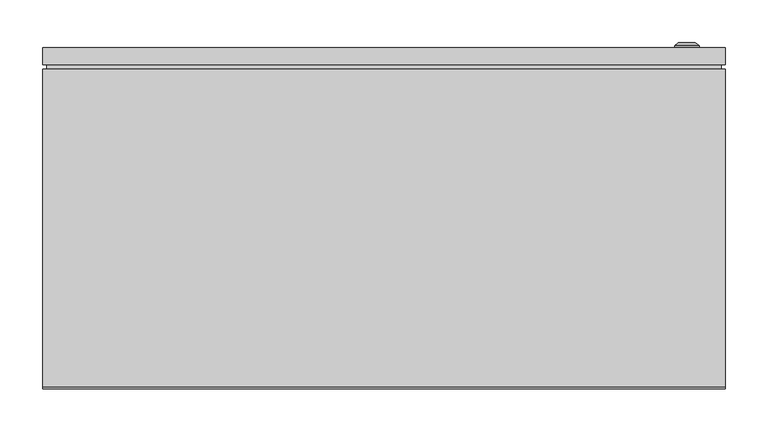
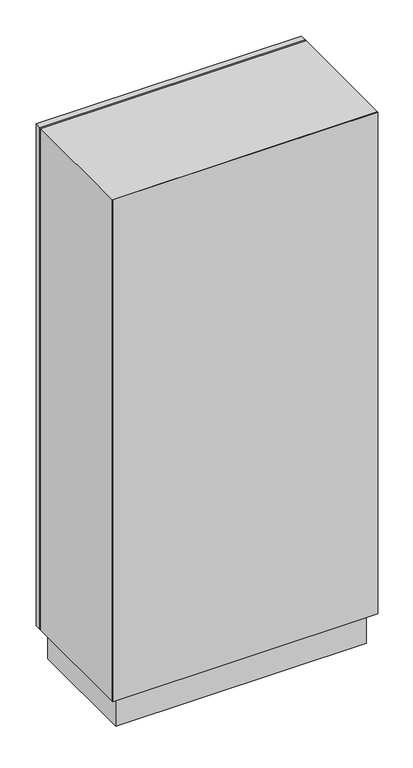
"""IFC4 building model written with IfcOpenShell, lengths in millimetres: proxy geometry, ЩМП_IP65 : ЩМП-16.8.4-0_1600х800х400."""

import ifcopenshell
import ifcopenshell.guid

model = None  # the IFC model being written
_history = None  # IfcOwnerHistory: only IFC2X3 demands one
_inside = {}  # id of a spatial element -> (the spatial element, [elements in it])
_under = {}  # id of a project, library or spatial element -> (it, [spatial elements below it])
_declared = {}  # id of a project -> (the project, [libraries it declares])
_typed = {}  # id of a type object -> (the type object, [elements of that type])
_made_of = {}  # id of a material, layer set ... -> (it, [elements and type objects made of it])


def new_model(schema):
    """Start an empty IFC model of exactly this schema.

    Asked for "IFC4X3", IfcOpenShell would pick the latest addendum, in which some entities
    have other attributes; the version numbers below select the first issue.
    IFC2X3 requires an IfcOwnerHistory on every rooted entity: one is made here for all.
    """
    global model, _history
    if schema == "IFC4X3":
        model = ifcopenshell.file(schema_version=(4, 3, 0, 0))
    else:
        model = ifcopenshell.file(schema=schema)
    _inside.clear()
    _under.clear()
    _declared.clear()
    _typed.clear()
    _made_of.clear()
    _history = None
    if model.schema == "IFC2X3":
        org = make("IfcOrganization", Name="unknown")
        user = make(
            "IfcPersonAndOrganization",
            ThePerson=make("IfcPerson", FamilyName="unknown"),
            TheOrganization=org,
        )
        app = make(
            "IfcApplication",
            ApplicationDeveloper=org,
            Version="unknown",
            ApplicationFullName="unknown",
            ApplicationIdentifier="unknown",
        )
        _history = make(
            "IfcOwnerHistory",
            OwningUser=user,
            OwningApplication=app,
            ChangeAction="ADDED",
            CreationDate=0,
        )
    return model


def make(cls, **values):
    """One entity of the class cls with the attributes given. An attribute that is None is left unset."""
    return model.create_entity(
        cls, **{name: value for name, value in values.items() if value is not None}
    )


def rooted(cls, **values):
    """An entity with a GlobalId (a new one), such as an element, a storey or a relation."""
    return make(cls, GlobalId=ifcopenshell.guid.new(), OwnerHistory=_history, **values)


def si_unit(unit_type, name, prefix=None):
    """IfcSIUnit, for example si_unit("LENGTHUNIT", "METRE", prefix="MILLI")."""
    return make("IfcSIUnit", UnitType=unit_type, Prefix=prefix, Name=name)


def assignment(units):
    """IfcUnitAssignment: the units of a project."""
    return None if units is None else make("IfcUnitAssignment", Units=units)


def point(xyz):
    """IfcCartesianPoint."""
    return None if xyz is None else make("IfcCartesianPoint", Coordinates=xyz)


def direction(xyz):
    """IfcDirection."""
    return None if xyz is None else make("IfcDirection", DirectionRatios=xyz)


def frame(location, z_axis=None, x_axis=None):
    """IfcAxis2Placement3D, a coordinate frame: its origin and axes. An axis left out is left unset."""
    return make(
        "IfcAxis2Placement3D",
        Location=point(location),
        Axis=direction(z_axis),
        RefDirection=direction(x_axis),
    )


def origin():
    """The frame at (0, 0, 0) with its axes left unset."""
    return frame((0.0, 0.0, 0.0))


def origin_with_axes():
    """The frame at (0, 0, 0) with the z axis (0, 0, 1) and the x axis (1, 0, 0) written out."""
    return frame((0.0, 0.0, 0.0), z_axis=(0.0, 0.0, 1.0), x_axis=(1.0, 0.0, 0.0))


def place(relative_to, where):
    """IfcLocalPlacement: puts the frame where relative to a parent placement (None: the world)."""
    return make(
        "IfcLocalPlacement", PlacementRelTo=relative_to, RelativePlacement=where
    )


def context(
    kind, dimensions, precision=None, world=None, true_north=None, identifier=None
):
    """IfcGeometricRepresentationContext, for example the 3D "Model" context."""
    return make(
        "IfcGeometricRepresentationContext",
        ContextIdentifier=identifier,
        ContextType=kind,
        CoordinateSpaceDimension=dimensions,
        Precision=precision,
        WorldCoordinateSystem=world,
        TrueNorth=true_north,
    )


def project(units=None, contexts=None):
    """IfcProject with its units and contexts."""
    return rooted(
        "IfcProject",
        Name="project",
        RepresentationContexts=contexts,
        UnitsInContext=assignment(units),
    )


def spatial(cls, under=None, at=None, **own):
    """A site, building, storey or space (cls), placed at a placement, below another one or the project."""
    s = rooted(cls, ObjectPlacement=at, **own)
    if under is not None:
        _under.setdefault(under.id(), (under, []))[1].append(s)
    return s


def polyline(points):
    """IfcPolyline through the points."""
    return make("IfcPolyline", Points=[point(p) for p in points])


def circle_curve(where, radius):
    """IfcCircle in the frame where."""
    return make("IfcCircle", Position=where, Radius=radius)


def outline(outer, holes=None, kind="AREA"):
    """IfcArbitraryClosedProfileDef: a profile drawn as a closed curve; with holes, ...WithVoids."""
    if holes is None:
        return make("IfcArbitraryClosedProfileDef", ProfileType=kind, OuterCurve=outer)
    return make(
        "IfcArbitraryProfileDefWithVoids",
        ProfileType=kind,
        OuterCurve=outer,
        InnerCurves=holes,
    )


def extrude(swept, where, along, depth):
    """IfcExtrudedAreaSolid: the profile swept, set in the frame where, extruded along a direction by depth."""
    return make(
        "IfcExtrudedAreaSolid",
        SweptArea=swept,
        Position=where,
        ExtrudedDirection=direction(along),
        Depth=depth,
    )


def shape(context_of_items, identifier, shape_type, items):
    """IfcShapeRepresentation: the items that make up one representation, for example the "Body"."""
    return make(
        "IfcShapeRepresentation",
        ContextOfItems=context_of_items,
        RepresentationIdentifier=identifier,
        RepresentationType=shape_type,
        Items=items,
    )


def source(mapping_origin, context_of_items, identifier, shape_type, items):
    """IfcRepresentationMap: a shape defined once, which mapped items show again and again."""
    return make(
        "IfcRepresentationMap",
        MappingOrigin=mapping_origin,
        MappedRepresentation=shape(context_of_items, identifier, shape_type, items),
    )


def transform(
    local_origin,
    x_axis=None,
    y_axis=None,
    z_axis=None,
    scale=None,
    scale2=None,
    scale3=None,
    uniform=True,
):
    """IfcCartesianTransformationOperator3D, or its non-uniform kind. x_axis, y_axis, z_axis: its Axis1, 2, 3."""
    if uniform:
        return make(
            "IfcCartesianTransformationOperator3D",
            Axis1=direction(x_axis),
            Axis2=direction(y_axis),
            LocalOrigin=point(local_origin),
            Scale=scale,
            Axis3=direction(z_axis),
        )
    return make(
        "IfcCartesianTransformationOperator3DnonUniform",
        Axis1=direction(x_axis),
        Axis2=direction(y_axis),
        LocalOrigin=point(local_origin),
        Scale=scale,
        Axis3=direction(z_axis),
        Scale2=scale2,
        Scale3=scale3,
    )


def mapped(mapping_source, mapping_target):
    """IfcMappedItem: shows the shape of a source again, moved by a transform."""
    return make(
        "IfcMappedItem", MappingSource=mapping_source, MappingTarget=mapping_target
    )


def made_of(thing, what):
    """Note that an element or type object is made of a material, layer set ...; save() writes the relation."""
    if what is not None:
        _made_of.setdefault(what.id(), (what, []))[1].append(thing)
    return thing


def element(
    cls,
    number,
    at=None,
    inside=None,
    cuts=None,
    type_object=None,
    material=None,
    context=None,
    identifier="Body",
    shape_type=None,
    held_by="IfcProductDefinitionShape",
    body=None,
    shapes=None,
    **own,
):
    """One element of the class cls, such as IfcWall. Its Tag is "e" and its number.

    at: its placement. inside: the storey or other place that contains it. cuts: it is an
    opening in that element (IfcRelVoidsElement). A single representation is given by context,
    identifier, shape_type and body (its items); several are given by shapes. held_by: the class
    of the entity that holds the representations. save() writes the other relations.
    """
    e = rooted(cls, Tag="e%d" % number, ObjectPlacement=at, **own)
    if body is not None:
        shapes = [shape(context, identifier, shape_type, body)]
    if shapes is not None:
        e.Representation = make(held_by, Representations=shapes)
    if inside is not None:
        _inside.setdefault(inside.id(), (inside, []))[1].append(e)
    if cuts is not None:
        rooted(
            "IfcRelVoidsElement", RelatingBuildingElement=cuts, RelatedOpeningElement=e
        )
    if type_object is not None:
        _typed.setdefault(type_object.id(), (type_object, []))[1].append(e)
    return made_of(e, material)


def aggregate(whole, parts):
    """IfcRelAggregates: a whole, such as a stair, and the parts it consists of."""
    return rooted("IfcRelAggregates", RelatingObject=whole, RelatedObjects=parts)


def save(model, path):
    """Write the relations noted so far, then the file.

    IfcRelAggregates (storeys below a building ...), IfcRelContainedInSpatialStructure (elements
    in a storey), IfcRelDefinesByType, IfcRelAssociatesMaterial and IfcRelDeclares: one each for
    every whole, place, type object, material and project.
    """
    for whole, parts in _under.values():
        aggregate(whole, parts)
    for where, things in _inside.values():
        rooted(
            "IfcRelContainedInSpatialStructure",
            RelatedElements=things,
            RelatingStructure=where,
        )
    for kind, things in _typed.values():
        rooted("IfcRelDefinesByType", RelatedObjects=things, RelatingType=kind)
    for what, things in _made_of.values():
        rooted("IfcRelAssociatesMaterial", RelatedObjects=things, RelatingMaterial=what)
    for by, libraries in _declared.values():
        rooted("IfcRelDeclares", RelatingContext=by, RelatedDefinitions=libraries)
    model.write(path)


def plane_surface(at):
    """IfcPlane: the flat surface through the origin of the frame at, square to its z axis."""
    return make("IfcPlane", Position=at)


def cylinder_surface(at, radius):
    """IfcCylindricalSurface: all points at the distance radius from the z axis of the frame at."""
    return make("IfcCylindricalSurface", Position=at, Radius=radius)


def revolved_surface(curve, axis_point, axis_direction):
    """IfcSurfaceOfRevolution: the curve turned about the line through axis_point along axis_direction."""
    return make(
        "IfcSurfaceOfRevolution",
        SweptCurve=make("IfcArbitraryOpenProfileDef", ProfileType="CURVE", Curve=curve),
        AxisPosition=make("IfcAxis1Placement", Location=point(axis_point), Axis=direction(axis_direction)),
    )


def advanced_brep(points, edges, surfaces, faces):
    """IfcAdvancedBrep: a solid bounded by faces that lie on surfaces and meet in shared edges.

    An edge is (start, end): straight between two places in points (the first is 0);
    or (start, end, curve); or (start, end, curve, False) where it runs against its curve.
    A face is (place in surfaces, loops), or (place, loops, False) where it looks against
    its surface's normal. A loop lists edges by number (the first is 1), with a minus sign
    where the edge is run from its end to its start. The first loop is the outer one.
    """
    corners = [point(p) for p in points]
    vertices = [make("IfcVertexPoint", VertexGeometry=c) for c in corners]
    made = []
    for start, end, *more in edges:
        made.append(
            make(
                "IfcEdgeCurve",
                EdgeStart=vertices[start],
                EdgeEnd=vertices[end],
                EdgeGeometry=more[0] if more else make("IfcPolyline", Points=[corners[start], corners[end]]),
                SameSense=more[1] if len(more) > 1 else True,
            )
        )
    hull = []
    for where, loops, *sense in faces:
        bounds = []
        for j, loop in enumerate(loops):
            ring = [make("IfcOrientedEdge", EdgeElement=made[abs(k) - 1], Orientation=k > 0) for k in loop]
            bounds.append(
                make(
                    "IfcFaceOuterBound" if j == 0 else "IfcFaceBound",
                    Bound=make("IfcEdgeLoop", EdgeList=ring),
                    Orientation=True,
                )
            )
        hull.append(make("IfcAdvancedFace", Bounds=bounds, FaceSurface=surfaces[where], SameSense=sense[0] if sense else True))
    return make("IfcAdvancedBrep", Outer=make("IfcClosedShell", CfsFaces=hull))


def electrical_equipment_b855b0b9(model_context):
    return source(origin(), model_context, "Body", "SolidModel", [
        extrude(outline(polyline([(377.5067809, 377.5), (377.5067809, 22.5), (-377.5, 22.5), (-377.5, 377.5), (377.5067809, 377.5)])), frame((0.0, 0.0, -100.0), z_axis=(0.0, 0.0, 1.0), x_axis=(1.0, 0.0, 0.0)), (0.0, 0.0, 1.0), 100.0),
        extrude(outline(polyline([(395.0, 375.0), (-395.0, 375.0), (-395.0, 380.0), (395.0, 380.0), (395.0, 375.0)])), frame((0.0, 0.0, 5.0), z_axis=(0.0, 0.0, 1.0), x_axis=(1.0, 0.0, 0.0)), (0.0, 0.0, 1.0), 1590.0),
        extrude(outline(polyline([(400.0, 380.0), (-400.0, 380.0), (-400.0, 400.0), (400.0, 400.0), (400.0, 380.0)])), origin_with_axes(), (0.0, 0.0, 1.0), 1600.0),
        advanced_brep(
        [(340.669873, 400.0, 800.0), (369.330127, 400.0, 800.0), (355.0, 400.0, 800.0), (340.669873, 402.366592, 800.0), (369.330127, 402.366592, 800.0), (345.0, 406.0, 800.0), (365.0, 406.0, 800.0), (353.1080471, 406.0, 800.0), (356.8919529, 406.0, 800.0), (353.1080471, 404.9822294, 800.0), (356.8919529, 404.9822294, 800.0), (355.0, 404.9822294, 800.0)],
        [
            (0, 1, circle_curve(frame((355.0, 400.0, 800.0), z_axis=(0.0, -1.0, 0.0), x_axis=(1.0, 0.0, 0.0)), 14.330127)),
            (1, 2),
            (2, 0),
            (1, 0, circle_curve(frame((355.0, 400.0, 800.0), z_axis=(0.0, -1.0, 0.0), x_axis=(1.0, 0.0, 0.0)), 14.330127)),
            (3, 4, circle_curve(frame((355.0, 402.366592, 800.0), z_axis=(0.0, -1.0, 0.0), x_axis=(1.0, 0.0, 0.0)), 14.330127)),
            (4, 1),
            (0, 3),
            (4, 3, circle_curve(frame((355.0, 402.366592, 800.0), z_axis=(0.0, -1.0, 0.0), x_axis=(1.0, 0.0, 0.0)), 14.330127)),
            (5, 6, circle_curve(frame((355.0, 406.0, 800.0), z_axis=(0.0, -1.0, 0.0), x_axis=(1.0, 0.0, 0.0)), 10.0)),
            (6, 4),
            (3, 5),
            (6, 5, circle_curve(frame((355.0, 406.0, 800.0), z_axis=(0.0, -1.0, 0.0), x_axis=(1.0, 0.0, 0.0)), 10.0)),
            (7, 8, circle_curve(frame((355.0, 406.0, 800.0), z_axis=(0.0, -1.0, 0.0), x_axis=(1.0, 0.0, 0.0)), 1.8919529)),
            (8, 6),
            (5, 7),
            (8, 7, circle_curve(frame((355.0, 406.0, 800.0), z_axis=(0.0, -1.0, 0.0), x_axis=(1.0, 0.0, 0.0)), 1.8919529)),
            (9, 10, circle_curve(frame((355.0, 404.9822294, 800.0), z_axis=(0.0, -1.0, 0.0), x_axis=(1.0, 0.0, 0.0)), 1.8919529)),
            (10, 8),
            (7, 9),
            (10, 9, circle_curve(frame((355.0, 404.9822294, 800.0), z_axis=(0.0, -1.0, 0.0), x_axis=(1.0, 0.0, 0.0)), 1.8919529)),
            (11, 10),
            (9, 11),
        ],
        [
            plane_surface(frame((355.0, 400.0, 800.0), z_axis=(0.0, -1.0, 0.0), x_axis=(1.0, 0.0, 0.0))),
            cylinder_surface(frame((355.0, 413.1348851, 800.0), z_axis=(0.0, 1.0, 0.0), x_axis=(1.0, 0.0, 0.0)), 14.330127),
            revolved_surface(polyline([(369.330127, 402.366592, 800.0), (365.0, 406.0, 800.0)]), (355.0, 413.1348851, 800.0), (0.0, 1.0, 0.0)),
            plane_surface(frame((355.0, 406.0, 800.0), z_axis=(0.0, 1.0, 0.0), x_axis=(1.0, 0.0, 0.0))),
            revolved_surface(polyline([(356.8919529, 406.0, 800.0), (356.8919529, 404.9822294, 800.0)]), (355.0, 413.1348851, 800.0), (0.0, 1.0, 0.0)),
            plane_surface(frame((355.0, 404.9822294, 800.0), z_axis=(0.0, 1.0, 0.0), x_axis=(1.0, 0.0, 0.0))),
        ],
        [
            (0, [[1, 2, 3]]),
            (0, [[4, -3, -2]]),
            (1, [[5, 6, -1, 7]]),
            (1, [[8, -7, -4, -6]]),
            (2, [[9, 10, -5, 11]]),
            (2, [[12, -11, -8, -10]]),
            (3, [[13, 14, -9, 15]]),
            (3, [[16, -15, -12, -14]]),
            (4, [[17, 18, -13, 19]]),
            (4, [[20, -19, -16, -18]]),
            (5, [[21, -17, 22]]),
            (5, [[-22, -20, -21]]),
        ],
    ),
        extrude(outline(polyline([(1600.0, -400.0033905), (0.0, -400.0033905), (0.0, 399.9966095), (1600.0, 399.9966095), (1600.0, -400.0033905)]), holes=[polyline([(1565.0, -365.0033905), (1565.0, 364.9966095), (35.0, 364.9966095), (35.0, -365.0033905), (1565.0, -365.0033905)])]), frame((0.0, 2.0, 0.0), z_axis=(0.0, 1.0, 0.0), x_axis=(0.0, 0.0, 1.0)), (0.0, 0.0, 1.0), 373.0),
        extrude(outline(polyline([(400.0, 0.0), (-400.0, 0.0), (-400.0, 2.0), (400.0, 2.0), (400.0, 0.0)])), origin_with_axes(), (0.0, 0.0, 1.0), 1600.0),
    ])


if __name__ == "__main__":
    model = new_model("IFC4")
    model_context = context("Model", 3, world=origin())
    ifc_project = project(units=[si_unit("LENGTHUNIT", "METRE", prefix="MILLI")], contexts=[model_context])
    site = spatial("IfcSite", under=ifc_project)
    building = spatial("IfcBuilding", under=site)
    placement = place(None, origin())
    electrical_equipment_shape = electrical_equipment_b855b0b9(model_context)
    element("IfcBuildingElementProxy", 1, Name="ЩМП_IP65 : ЩМП-16.8.4-0_1600х800х400", ObjectType="ЩМП_IP65 : ЩМП-16.8.4-0_1600х800х400", at=placement, inside=building, context=model_context, shape_type="MappedRepresentation", body=[
        mapped(electrical_equipment_shape, transform((0.0, 0.0, 0.0), x_axis=(1.0, 0.0, 0.0), y_axis=(0.0, 1.0, 0.0), z_axis=(0.0, 0.0, 1.0))),
    ])
    save(model, "model.ifc")
